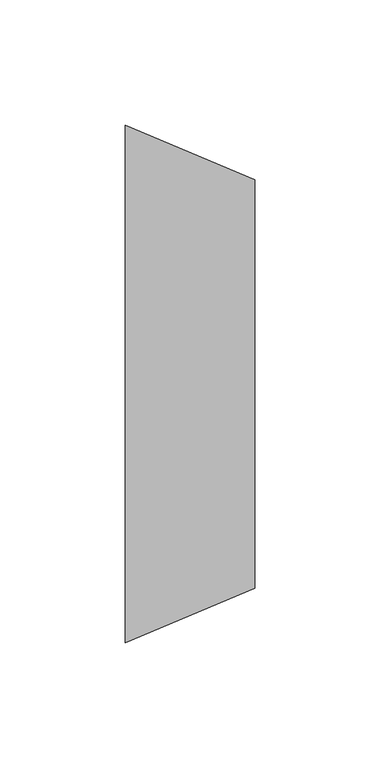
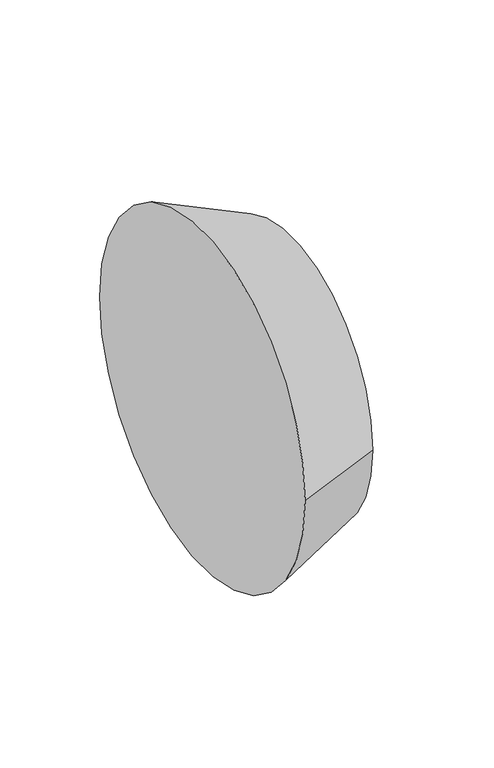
"""IFC4 building model written with IfcOpenShell, lengths in millimetres: pipe fitting geometry, M_Transición - Genérica : Estándar."""

from ifc_helpers import new_model, si_unit, frame, origin, place, context, project, spatial, polyline, circle_curve, source, transform, mapped, element, save
from ifc_brep_helpers import plane_surface, revolved_surface, advanced_brep


def pipe_fitting_a6cf3e06(model_context):
    return source(origin(), model_context, "Body", "AdvancedBrep", [
        advanced_brep(
        [(51.59375, -81.5875, 0.0), (51.59375, 81.5875, 0.0), (0.0, -103.1875, 0.0), (0.0, 103.1875, 0.0)],
        [
            (0, 1, circle_curve(frame((51.59375, 0.0, 0.0), z_axis=(1.0, 0.0, 0.0), x_axis=(0.0, -1.0, 0.0)), 81.5875)),
            (1, 0, circle_curve(frame((51.59375, 0.0, 0.0), z_axis=(1.0, 0.0, 0.0), x_axis=(0.0, 1.0, 0.0)), 81.5875)),
            (2, 3, circle_curve(frame((0.0, 0.0, 0.0), z_axis=(-1.0, 0.0, 0.0), x_axis=(0.0, 1.0, 0.0)), 103.1875)),
            (3, 2, circle_curve(frame((0.0, 0.0, 0.0), z_axis=(-1.0, 0.0, 0.0), x_axis=(0.0, -1.0, 0.0)), 103.1875)),
            (3, 1),
            (0, 2),
        ],
        [
            plane_surface(frame((51.59375, 0.0, 0.0), z_axis=(1.0, 0.0, 0.0), x_axis=(0.0, 0.0, -1.0))),
            plane_surface(frame((0.0, 0.0, 0.0), z_axis=(-1.0, 0.0, 0.0), x_axis=(0.0, 0.0, -1.0))),
            revolved_surface(polyline([(51.59375, -81.58749999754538, 0.0), (0.0, -103.1875, 0.0)]), (246.4736147, 0.0, 0.0), (-1.0, 0.0, 0.0)),
            revolved_surface(polyline([(51.59375, 81.58749999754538, 0.0), (0.0, 103.1875, 0.0)]), (246.4736147, 0.0, 0.0), (-1.0, 0.0, 0.0)),
        ],
        [
            (0, [[1, 2]]),
            (1, [[3, 4]]),
            (2, [[-4, 5, -1, 6]]),
            (3, [[-3, -6, -2, -5]]),
        ],
    ),
    ])


if __name__ == "__main__":
    model = new_model("IFC4")
    model_context = context("Model", 3, world=origin())
    ifc_project = project(units=[si_unit("LENGTHUNIT", "METRE", prefix="MILLI")], contexts=[model_context])
    site = spatial("IfcSite", under=ifc_project)
    building = spatial("IfcBuilding", under=site)
    placement = place(None, origin())
    pipe_fitting_shape = pipe_fitting_a6cf3e06(model_context)
    element("IfcPipeFitting", 1, ObjectType="M_Transición - Genérica : Estándar", at=placement, inside=building, context=model_context, shape_type="MappedRepresentation", body=[
        mapped(pipe_fitting_shape, transform((0.0, 0.0, 0.0), x_axis=(1.0, 0.0, 0.0), y_axis=(0.0, 1.0, 0.0), z_axis=(0.0, 0.0, 1.0))),
    ])
    save(model, "model.ifc")
